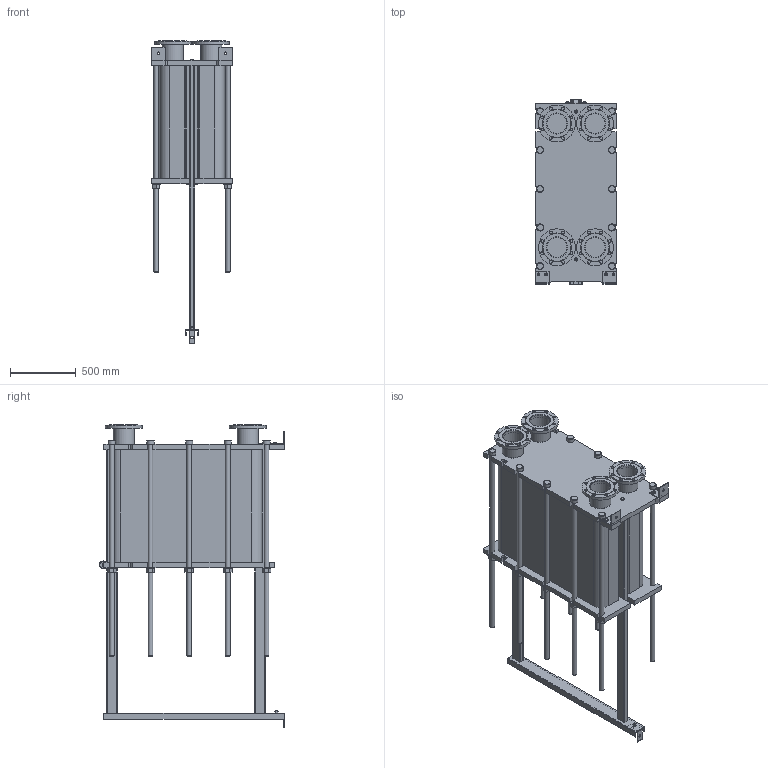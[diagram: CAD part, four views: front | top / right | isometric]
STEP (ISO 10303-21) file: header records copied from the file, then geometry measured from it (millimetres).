
FILE_DESCRIPTION(/* description */ (''),/* implementation_level */ '2;1');
FILE_NAME(/* name */ 'C:\Users\zhuro\Desktop\ENCO\TO\ЭН-041\ЭН-0,5-041-248-1.stp',/* time_stamp */ '2022-06-06T11:09:59+03:00',/* author */ ('zhuro'),/* organization */ (''),/* preprocessor_version */ 'ST-DEVELOPER v18.1',/* originating_system */ 'Autodesk Inventor 2022',/* authorisation */ '');
FILE_SCHEMA (('AUTOMOTIVE_DESIGN { 1 0 10303 214 3 1 1 }'));
Length unit declared in the file: millimetre
Products named in the file (1): ЭН-0,5-041-248-1
Bounding box: 610 x 1406.5 x 2300 mm (x, y, z)
Volume: 572094826.3 mm3; surface area: 12287789.8 mm2
Topology: 52 solids, 52 shells, 711 faces, 1696 edges, 1094 vertices
Faces by surface type: plane 487, cylinder 177, cone 41, torus 6
Full cylindrical faces by diameter (mm): 8 x4, 10 x2, 16 x8, 18 x3, 22 x32, 36 x24, 50 x1, 54 x10, 60 x12, 151 x4, 161 x8, 280 x4
Entity records: 22667 total; most frequent: CARTESIAN_POINT 5230, DIRECTION 3644, ORIENTED_EDGE 3392, EDGE_CURVE 1696, AXIS2_PLACEMENT_3D 1272, LINE 1100, VECTOR 1100, VERTEX_POINT 1094
